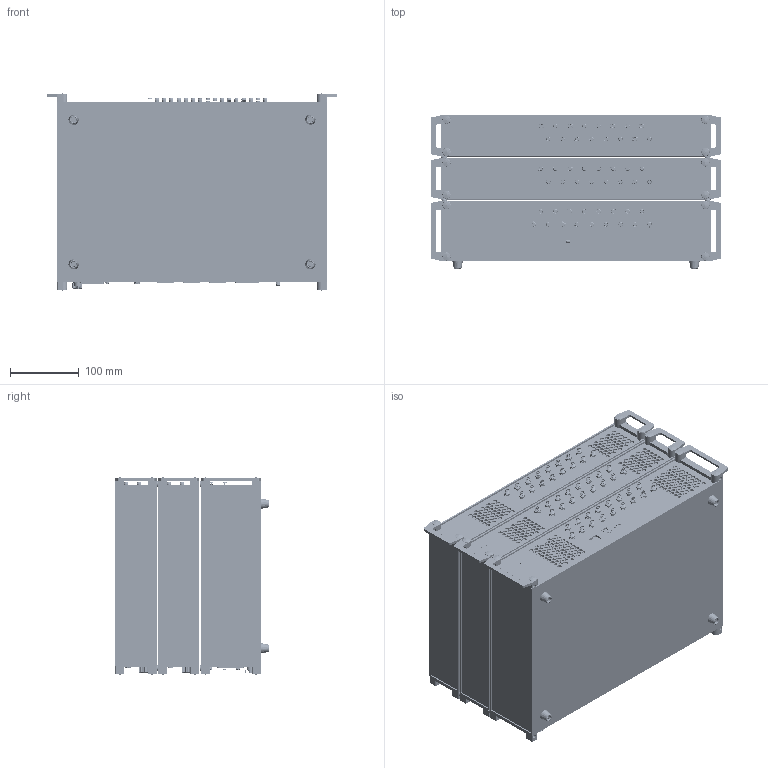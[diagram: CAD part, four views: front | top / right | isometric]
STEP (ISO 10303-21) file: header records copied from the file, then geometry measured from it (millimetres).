
FILE_DESCRIPTION (( 'STEP AP203' ), '1' );
FILE_NAME ('930048_PQ.077.6000.0016.12_MH160_M+X12.STEP', '2026-06-01T10:41:03', ( '' ), ( '' ), 'SwSTEP 2.0', 'SolidWorks 2025', '' );
FILE_SCHEMA (( 'CONFIG_CONTROL_DESIGN' ));
Products named in the file (1): 930048_PQ.077.6000.0016.12_MH160_M+X12
Bounding box: 422.5 x 222.7 x 286.3 mm (x, y, z)
Surface area: 1133098.5 mm2 (no closed solid volume)
Topology: 0 solids, 989 shells, 15076 faces, 50288 edges, 35557 vertices
Faces by surface type: plane 8114, cylinder 5406, cone 1146, bspline 333, torus 43, sphere 34
Full cylindrical faces by diameter (mm): 1 x32, 1.3 x12, 1.5 x10, 1.6 x1, 2.2 x5, 2.261 x6, 2.65 x3, 3 x3, 3.2 x4, 3.275 x1, 3.4 x1, 3.6 x5, 3.8 x32, 3.86 x6, 4.3 x1, 4.5 x8, 4.61 x53, 4.8 x37, 5 x13, 5.2 x4, 5.35 x53, 5.451 x141, 5.5 x9, 5.7 x9, 5.725 x6, 6 x1, 6.26 x5, 7.5 x1, 7.7 x11, 8 x13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
Entity records: 545063 total; most frequent: CARTESIAN_POINT 121877, DIRECTION 88458, ORIENTED_EDGE 76418, EDGE_CURVE 48697, VERTEX_POINT 35090, LINE 29986, VECTOR 29986, AXIS2_PLACEMENT_3D 29236
